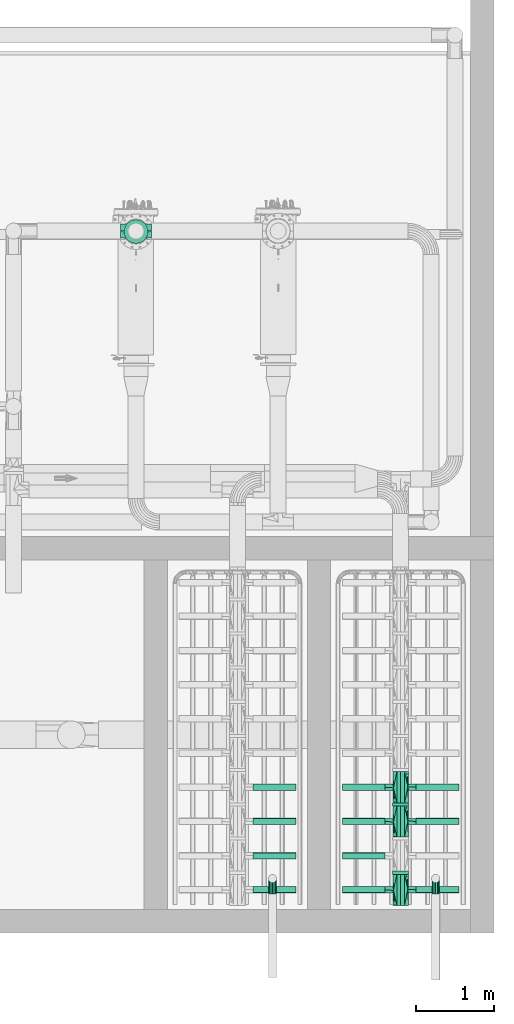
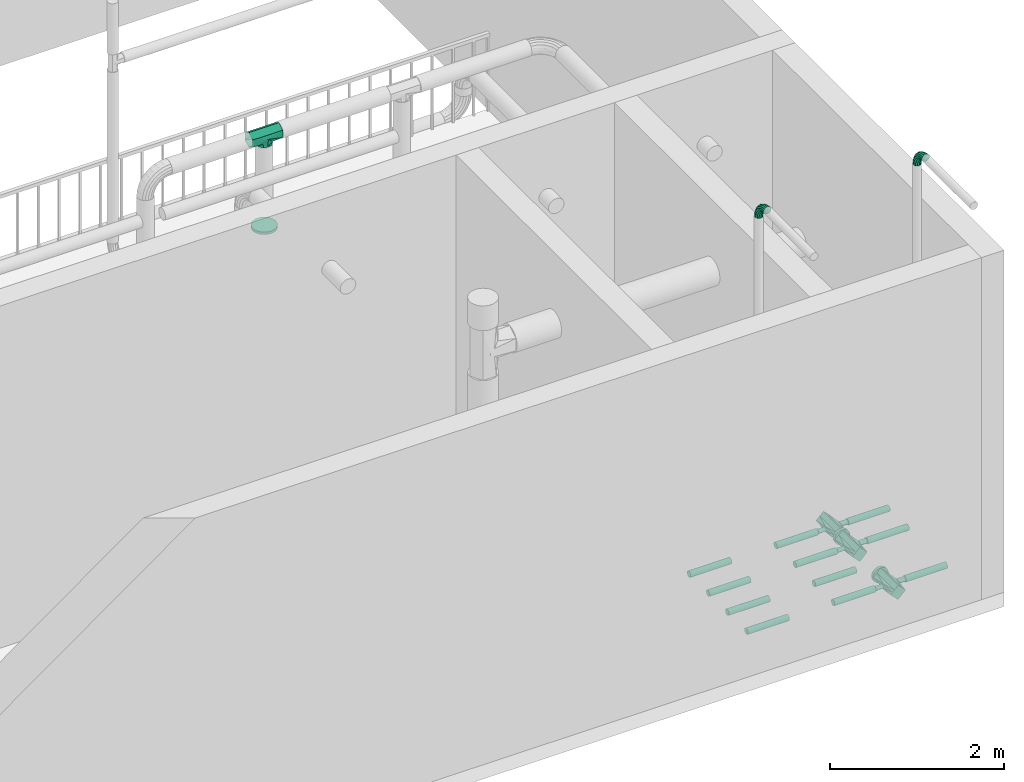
# One storey, part 20 of 28: 14 flow segments, 6 flow fittings.
"""IFC2X3 building model written with IfcOpenShell, lengths in millimetres."""

from ifc_helpers import new_model, entity, si_unit, converted_unit, direction, frame, frame_2d, origin, origin_2d_with_axis, place, context, subcontext, project, spatial, circle, extrude, faceted_brep, source, transform, mapped, material, type_object, type_shapes, element, save


model = new_model("IFC2X3")

# Units and contexts
model_context = context("Model", 3, precision=0.01, world=origin(), true_north=direction((6.123031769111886e-17, 1.0)))
body_context = subcontext(model_context, "Body", "Model", "MODEL_VIEW")
ifc_project = project(units=[si_unit("LENGTHUNIT", "METRE", prefix="MILLI"), converted_unit("PLANEANGLEUNIT", "DEGREE", entity("IfcPlaneAngleMeasure", 0.017453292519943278), si_unit("PLANEANGLEUNIT", "RADIAN"), dimensions=[0, 0, 0, 0, 0, 0, 0]), si_unit("AREAUNIT", "SQUARE_METRE")], contexts=[model_context])

# Site, building, storey
site_placement = place(None, frame((7776.576483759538, 118.3519876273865, 0.0)))
site = spatial("IfcSite", under=ifc_project, at=site_placement, Name="Default", CompositionType="ELEMENT")
building_placement = place(site_placement, origin())
building = spatial("IfcBuilding", under=site, at=building_placement, Name="Bygning (endres i Project Information)", CompositionType="ELEMENT")
storey_placement = place(building_placement, frame((0.0, 0.0, 14000.0)))
storey = spatial("IfcBuildingStorey", under=building, at=storey_placement, Name="Plan U1 - Arbeid", CompositionType="ELEMENT", Elevation=14000.000000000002)

# Flow segments
ifc_material_1 = material(Name="SS 2343 Rustfritt stål, prosessrør, generisk")
pipe_segment_type = type_object("IfcPipeSegmentType", Name="Pipe Types:AISI 304L Rustfritt", PredefinedType="NOTDEFINED", material=ifc_material_1)
flow_segment_1_placement = place(storey_placement, origin())
element("IfcFlowSegment", 1, at=flow_segment_1_placement, inside=storey, type_object=pipe_segment_type, Name="Pipe Types:AISI 304L Rustfritt", ObjectType="Pipe Types:AISI 304L Rustfritt", context=body_context, shape_type="SweptSolid", body=[
    extrude(circle(Radius=42.0, at=origin_2d_with_axis()), frame((29174.001374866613, 21271.75730578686, 203.0), z_axis=(1.0, 0.0, 0.0), x_axis=(0.0, -1.0, 0.0)), (0.0, 0.0, 1.0), 549.99999999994),
])
flow_segment_2_placement = place(storey_placement, origin())
element("IfcFlowSegment", 2, at=flow_segment_2_placement, inside=storey, type_object=pipe_segment_type, Name="Pipe Types:AISI 304L Rustfritt", ObjectType="Pipe Types:AISI 304L Rustfritt", context=body_context, shape_type="SweptSolid", body=[
    extrude(circle(Radius=42.0, at=origin_2d_with_axis()), frame((29174.001374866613, 20831.75730578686, 203.0), z_axis=(1.0, 0.0, 0.0), x_axis=(0.0, -1.0, 0.0)), (0.0, 0.0, 1.0), 549.99999999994),
])
flow_segment_3_placement = place(storey_placement, origin())
element("IfcFlowSegment", 3, at=flow_segment_3_placement, inside=storey, type_object=pipe_segment_type, Name="Pipe Types:AISI 304L Rustfritt", ObjectType="Pipe Types:AISI 304L Rustfritt", context=body_context, shape_type="SweptSolid", body=[
    extrude(circle(Radius=42.0, at=origin_2d_with_axis()), frame((29174.001374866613, 20391.757305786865, 203.0), z_axis=(1.0, 0.0, 0.0), x_axis=(0.0, -1.0, 0.0)), (0.0, 0.0, 1.0), 549.99999999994),
])
flow_segment_4_placement = place(storey_placement, origin())
element("IfcFlowSegment", 4, at=flow_segment_4_placement, inside=storey, type_object=pipe_segment_type, Name="Pipe Types:AISI 304L Rustfritt", ObjectType="Pipe Types:AISI 304L Rustfritt", context=body_context, shape_type="SweptSolid", body=[
    extrude(circle(Radius=42.0, at=origin_2d_with_axis()), frame((29174.001374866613, 19951.757305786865, 203.0), z_axis=(1.0, 0.0, 0.0), x_axis=(0.0, -1.0, 0.0)), (0.0, 0.0, 1.0), 549.99999999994),
])
flow_segment_5_placement = place(storey_placement, origin())
element("IfcFlowSegment", 5, at=flow_segment_5_placement, inside=storey, type_object=pipe_segment_type, Name="Pipe Types:AISI 304L Rustfritt", ObjectType="Pipe Types:AISI 304L Rustfritt", context=body_context, shape_type="SweptSolid", body=[
    extrude(circle(Radius=42.0, at=origin_2d_with_axis()), frame((31274.00137486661, 21271.757305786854, 203.0), z_axis=(1.0, 0.0, 0.0), x_axis=(0.0, -1.0, 0.0)), (0.0, 0.0, 1.0), 549.99999999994),
])
flow_segment_6_placement = place(storey_placement, origin())
element("IfcFlowSegment", 6, at=flow_segment_6_placement, inside=storey, type_object=pipe_segment_type, Name="Pipe Types:AISI 304L Rustfritt", ObjectType="Pipe Types:AISI 304L Rustfritt", context=body_context, shape_type="SweptSolid", body=[
    extrude(circle(Radius=42.0, at=origin_2d_with_axis()), frame((30324.001374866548, 21271.757305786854, 203.0), z_axis=(1.0, 0.0, 0.0), x_axis=(0.0, -1.0, 0.0)), (0.0, 0.0, 1.0), 550.0000000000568),
])
flow_segment_7_placement = place(storey_placement, origin())
element("IfcFlowSegment", 7, at=flow_segment_7_placement, inside=storey, type_object=pipe_segment_type, Name="Pipe Types:AISI 304L Rustfritt", ObjectType="Pipe Types:AISI 304L Rustfritt", context=body_context, shape_type="SweptSolid", body=[
    extrude(circle(Radius=42.0, at=origin_2d_with_axis()), frame((31274.00137486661, 20831.757305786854, 203.0), z_axis=(1.0, 0.0, 0.0), x_axis=(0.0, -1.0, 0.0)), (0.0, 0.0, 1.0), 549.99999999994),
])
flow_segment_8_placement = place(storey_placement, origin())
element("IfcFlowSegment", 8, at=flow_segment_8_placement, inside=storey, type_object=pipe_segment_type, Name="Pipe Types:AISI 304L Rustfritt", ObjectType="Pipe Types:AISI 304L Rustfritt", context=body_context, shape_type="SweptSolid", body=[
    extrude(circle(Radius=42.0, at=origin_2d_with_axis()), frame((30324.001374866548, 20831.757305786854, 203.0), z_axis=(1.0, 0.0, 0.0), x_axis=(0.0, -1.0, 0.0)), (0.0, 0.0, 1.0), 550.0000000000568),
])
flow_segment_9_placement = place(storey_placement, origin())
element("IfcFlowSegment", 9, at=flow_segment_9_placement, inside=storey, type_object=pipe_segment_type, Name="Pipe Types:AISI 304L Rustfritt", ObjectType="Pipe Types:AISI 304L Rustfritt", context=body_context, shape_type="SweptSolid", body=[
    extrude(circle(Radius=103.0, at=origin_2d_with_axis()), frame((31074.00137486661, 21031.757305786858, 203.0), z_axis=(0.0, 1.0, 0.0), x_axis=(1.0, 0.0, 0.0)), (0.0, 0.0, 1.0), 39.99999999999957),
])
flow_segment_10_placement = place(storey_placement, origin())
element("IfcFlowSegment", 10, at=flow_segment_10_placement, inside=storey, type_object=pipe_segment_type, Name="Pipe Types:AISI 304L Rustfritt", ObjectType="Pipe Types:AISI 304L Rustfritt", context=body_context, shape_type="SweptSolid", body=[
    extrude(circle(Radius=42.0, at=origin_2d_with_axis()), frame((30324.001374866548, 20391.757305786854, 203.0), z_axis=(1.0, 0.0, 0.0), x_axis=(0.0, -1.0, 0.0)), (0.0, 0.0, 1.0), 550.0000000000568),
])
flow_segment_11_placement = place(storey_placement, origin())
element("IfcFlowSegment", 11, at=flow_segment_11_placement, inside=storey, type_object=pipe_segment_type, Name="Pipe Types:AISI 304L Rustfritt", ObjectType="Pipe Types:AISI 304L Rustfritt", context=body_context, shape_type="SweptSolid", body=[
    extrude(circle(Radius=42.0, at=origin_2d_with_axis()), frame((31274.00137486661, 19951.757305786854, 203.0), z_axis=(1.0, 0.0, 0.0), x_axis=(0.0, -1.0, 0.0)), (0.0, 0.0, 1.0), 549.99999999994),
])
flow_segment_12_placement = place(storey_placement, origin())
element("IfcFlowSegment", 12, at=flow_segment_12_placement, inside=storey, type_object=pipe_segment_type, Name="Pipe Types:AISI 304L Rustfritt", ObjectType="Pipe Types:AISI 304L Rustfritt", context=body_context, shape_type="SweptSolid", body=[
    extrude(circle(Radius=42.0, at=origin_2d_with_axis()), frame((30324.001374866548, 19951.757305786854, 203.0), z_axis=(1.0, 0.0, 0.0), x_axis=(0.0, -1.0, 0.0)), (0.0, 0.0, 1.0), 550.0000000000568),
])
flow_segment_13_placement = place(storey_placement, origin())
element("IfcFlowSegment", 13, at=flow_segment_13_placement, inside=storey, type_object=pipe_segment_type, Name="Pipe Types:AISI 304L Rustfritt", ObjectType="Pipe Types:AISI 304L Rustfritt", context=body_context, shape_type="SweptSolid", body=[
    extrude(circle(Radius=103.0, at=origin_2d_with_axis()), frame((31074.00137486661, 20151.757305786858, 203.0), z_axis=(0.0, 1.0, 0.0), x_axis=(1.0, 0.0, 0.0)), (0.0, 0.0, 1.0), 39.99999999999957),
])
flow_segment_14_placement = place(storey_placement, origin())
element("IfcFlowSegment", 14, at=flow_segment_14_placement, inside=storey, type_object=pipe_segment_type, Name="Pipe Types:AISI 304L Rustfritt", ObjectType="Pipe Types:AISI 304L Rustfritt", context=body_context, shape_type="SweptSolid", body=[
    extrude(circle(Radius=153.0, at=frame_2d((0.0, 4.331413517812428e-12), x_axis=(1.0, 0.0))), frame((27667.696048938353, 28422.8675794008, 1263.511270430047), z_axis=(0.0, 0.005039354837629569, 0.9999873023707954), x_axis=(1.0, 0.0, 0.0)), (0.0, 0.0, 1.0), 35.88252624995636),
])

# Flow fittings
pipe_fitting_type_1 = type_object("IfcPipeFittingType", Name="VA_prosess_rustfritt_bend_D+100:VA_prosess_rustfritt_bend_D+100", PredefinedType="NOTDEFINED", material=ifc_material_1)
shared_shape_1 = source(origin(), body_context, "Body", "Brep", [
    faceted_brep([(-144.36976651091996, -43.73197804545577, 0.0), (-145.47159151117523, -38.904567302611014, 21.694186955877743), (-200.0, -45.04844339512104, 21.694186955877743), (-200.0, -50.0, 0.0), (-148.5588365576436, -25.37846297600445, 39.09157412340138), (-200.0, -31.17449009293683, 39.09157412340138), (-153.02003490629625, -5.83267591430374, 48.74639560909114), (-200.0, -11.126046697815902, 48.74639560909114), (-157.97159151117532, 15.861511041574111, 48.74639560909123), (-200.0, 11.126046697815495, 48.74639560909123), (-162.43278985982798, 35.40729810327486, 39.091574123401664), (-200.0, 31.17449009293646, 39.091574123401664), (-165.5200349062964, 48.93340242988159, 21.694186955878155), (-200.0, 45.04844339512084, 21.694186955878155), (-166.6218599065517, 53.760813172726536, 0.0), (-200.0, 50.0, 0.0), (-165.52003490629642, 48.9334024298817, -21.694186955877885), (-200.0, 45.04844339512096, -21.694186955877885), (-162.43278985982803, 35.4072981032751, -39.09157412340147), (-200.0, 31.174490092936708, -39.09157412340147), (-157.97159151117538, 15.861511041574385, -48.746395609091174), (-200.0, 11.126046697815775, -48.746395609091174), (-153.0200349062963, -5.832675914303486, -48.7463956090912), (-200.0, -11.12604669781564, -48.7463956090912), (-148.55883655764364, -25.37846297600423, -39.09157412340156), (-200.0, -31.1744900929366, -39.09157412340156), (-145.47159151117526, -38.90456730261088, -21.694186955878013), (-200.0, -45.048443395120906, -21.694186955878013), (-91.52906522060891, -25.242216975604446, 0.0), (-93.67746511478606, -20.781018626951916, 21.694186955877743), (-99.69714784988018, -8.281018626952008, 39.09157412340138), (-108.39584143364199, 9.782004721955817, 48.74639560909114), (-118.05066291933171, 29.83044811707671, 48.74639560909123), (-126.74935650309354, 47.89347146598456, 39.091574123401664), (-132.76903923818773, 60.39347146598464, 21.694186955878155), (-134.917439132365, 64.85466981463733, 0.0), (-132.7690392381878, 60.393471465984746, -21.694186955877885), (-126.74935650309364, 47.89347146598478, -39.09157412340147), (-118.05066291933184, 29.830448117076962, -48.746395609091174), (-108.3958414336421, 9.782004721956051, -48.7463956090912), (-99.69714784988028, -8.281018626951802, -39.09157412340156), (-93.67746511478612, -20.781018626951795, -21.694186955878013), (-44.12754953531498, 4.542129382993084, 0.0), (-47.21479458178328, 8.41341222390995, 21.694186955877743), (-55.86506297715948, 19.26050570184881, 39.09157412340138), (-68.36506297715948, 34.935009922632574, 48.74639560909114), (-82.23901627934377, 52.33239709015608, 48.74639560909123), (-94.73901627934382, 68.00690131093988, 39.091574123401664), (-103.38928467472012, 78.85399478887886, 21.694186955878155), (-106.47652972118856, 82.72527762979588, 0.0), (-103.3892846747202, 78.85399478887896, -21.694186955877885), (-94.73901627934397, 68.00690131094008, -39.09157412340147), (-82.23901627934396, 52.332397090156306, -48.746395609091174), (-68.36506297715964, 34.93500992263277, -48.7463956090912), (-55.865062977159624, 19.260505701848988, -39.09157412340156), (-47.214794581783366, 8.413412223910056, -21.694186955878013), (-4.542129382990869, 44.12754953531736, 0.0), (-8.413412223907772, 47.214794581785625, 21.694186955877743), (-19.260505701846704, 55.86506297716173, 39.09157412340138), (-34.93500992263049, 68.3650629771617, 48.74639560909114), (-52.33239709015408, 82.2390162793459, 48.74639560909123), (-68.00690131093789, 94.73901627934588, 39.091574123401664), (-78.85399478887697, 103.3892846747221, 21.694186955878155), (-82.72527762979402, 106.47652972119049, 0.0), (-78.85399478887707, 103.38928467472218, -21.694186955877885), (-68.00690131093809, 94.73901627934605, -39.09157412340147), (-52.3323970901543, 82.23901627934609, -48.746395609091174), (-34.9350099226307, 68.36506297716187, -48.7463956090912), (-19.26050570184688, 55.86506297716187, -39.09157412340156), (-8.413412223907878, 47.21479458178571, -21.694186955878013), (25.242216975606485, 91.52906522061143, 0.0), (20.781018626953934, 93.67746511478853, 21.694186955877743), (8.28101862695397, 99.69714784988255, 39.09157412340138), (-9.782004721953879, 108.3958414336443, 48.74639560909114), (-29.830448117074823, 118.05066291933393, 48.74639560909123), (-47.89347146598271, 126.7493565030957, 39.091574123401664), (-60.39347146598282, 132.7690392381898, 21.694186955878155), (-64.85466981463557, 134.91743913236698, 0.0), (-60.393471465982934, 132.76903923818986, -21.694186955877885), (-47.893471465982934, 126.74935650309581, -39.09157412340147), (-29.830448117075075, 118.05066291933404, -48.746395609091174), (-9.782004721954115, 108.39584143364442, -48.7463956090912), (8.281018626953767, 99.69714784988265, -39.09157412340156), (20.781018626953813, 93.67746511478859, -21.694186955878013), (43.73197804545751, 144.36976651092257, 0.0), (38.90456730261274, 145.47159151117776, 21.694186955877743), (25.378462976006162, 148.55883655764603, 39.09157412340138), (5.832675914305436, 153.0200349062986, 48.74639560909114), (-15.861511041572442, 157.97159151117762, 48.74639560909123), (-35.4072981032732, 162.4327898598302, 39.091574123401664), (-48.933402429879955, 165.52003490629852, 21.694186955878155), (-53.760813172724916, 166.62185990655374, 0.0), (-48.93340242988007, 165.52003490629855, -21.694186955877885), (-35.40729810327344, 162.43278985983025, -39.09157412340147), (-15.861511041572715, 157.97159151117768, -48.746395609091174), (5.832675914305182, 153.0200349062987, -48.7463956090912), (25.37846297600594, 148.5588365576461, -39.09157412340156), (38.90456730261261, 145.4715915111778, -21.694186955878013), (50.0, 200.0, 0.0), (45.04844339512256, 200.0, 21.694186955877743), (31.174490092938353, 200.0, 39.09157412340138), (11.126046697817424, 200.0, 48.74639560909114), (-11.126046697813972, 200.0, 48.74639560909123), (-31.174490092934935, 200.0, 39.091574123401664), (-45.04844339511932, 200.0, 21.694186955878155), (-50.0, 200.0, 0.0), (-45.04844339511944, 200.0, -21.694186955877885), (-31.174490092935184, 200.0, -39.09157412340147), (-11.126046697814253, 200.0, -48.746395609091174), (11.126046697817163, 200.0, -48.7463956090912), (31.174490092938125, 200.0, -39.09157412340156), (45.048443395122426, 200.0, -21.694186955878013)], [[[0, 1, 2, 3]], [[1, 4, 5, 2]], [[4, 6, 7, 5]], [[6, 8, 9, 7]], [[8, 10, 11, 9]], [[10, 12, 13, 11]], [[12, 14, 15, 13]], [[14, 16, 17, 15]], [[16, 18, 19, 17]], [[18, 20, 21, 19]], [[20, 22, 23, 21]], [[22, 24, 25, 23]], [[24, 26, 27, 25]], [[26, 0, 3, 27]], [[28, 29, 1, 0]], [[29, 30, 4, 1]], [[30, 31, 6, 4]], [[31, 32, 8, 6]], [[32, 33, 10, 8]], [[33, 34, 12, 10]], [[34, 35, 14, 12]], [[35, 36, 16, 14]], [[36, 37, 18, 16]], [[37, 38, 20, 18]], [[38, 39, 22, 20]], [[39, 40, 24, 22]], [[40, 41, 26, 24]], [[41, 28, 0, 26]], [[42, 43, 29, 28]], [[43, 44, 30, 29]], [[44, 45, 31, 30]], [[45, 46, 32, 31]], [[46, 47, 33, 32]], [[47, 48, 34, 33]], [[48, 49, 35, 34]], [[49, 50, 36, 35]], [[50, 51, 37, 36]], [[51, 52, 38, 37]], [[52, 53, 39, 38]], [[53, 54, 40, 39]], [[54, 55, 41, 40]], [[55, 42, 28, 41]], [[56, 57, 43, 42]], [[57, 58, 44, 43]], [[58, 59, 45, 44]], [[59, 60, 46, 45]], [[60, 61, 47, 46]], [[61, 62, 48, 47]], [[62, 63, 49, 48]], [[63, 64, 50, 49]], [[64, 65, 51, 50]], [[65, 66, 52, 51]], [[66, 67, 53, 52]], [[67, 68, 54, 53]], [[68, 69, 55, 54]], [[69, 56, 42, 55]], [[70, 71, 57, 56]], [[71, 72, 58, 57]], [[72, 73, 59, 58]], [[73, 74, 60, 59]], [[74, 75, 61, 60]], [[75, 76, 62, 61]], [[76, 77, 63, 62]], [[77, 78, 64, 63]], [[78, 79, 65, 64]], [[79, 80, 66, 65]], [[80, 81, 67, 66]], [[81, 82, 68, 67]], [[82, 83, 69, 68]], [[83, 70, 56, 69]], [[84, 85, 71, 70]], [[85, 86, 72, 71]], [[86, 87, 73, 72]], [[87, 88, 74, 73]], [[88, 89, 75, 74]], [[89, 90, 76, 75]], [[90, 91, 77, 76]], [[91, 92, 78, 77]], [[92, 93, 79, 78]], [[93, 94, 80, 79]], [[94, 95, 81, 80]], [[95, 96, 82, 81]], [[96, 97, 83, 82]], [[97, 84, 70, 83]], [[98, 99, 85, 84]], [[99, 100, 86, 85]], [[100, 101, 87, 86]], [[101, 102, 88, 87]], [[102, 103, 89, 88]], [[103, 104, 90, 89]], [[104, 105, 91, 90]], [[105, 106, 92, 91]], [[106, 107, 93, 92]], [[107, 108, 94, 93]], [[108, 109, 95, 94]], [[109, 110, 96, 95]], [[110, 111, 97, 96]], [[111, 98, 84, 97]], [[3, 2, 5, 7, 9, 11, 13, 15, 17, 19, 21, 23, 25, 27]], [[111, 110, 109, 108, 107, 106, 105, 104, 103, 102, 101, 100, 99, 98]]]),
])
type_shapes(pipe_fitting_type_1, [shared_shape_1])
for number, where, z_axis, x_axis in (
    (15, (31524.001374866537, 20097.757305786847, 6053.29656775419), (1.0, 0.0, 0.0), (0.0, 0.0, 1.0)),
    (16, (29424.00137486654, 20097.757305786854, 6053.29656775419), (1.0, 0.0, 0.0), (0.0, 0.0, 1.0)),
):
    element("IfcFlowFitting", number, at=place(storey_placement, frame(where, z_axis=z_axis, x_axis=x_axis)), inside=storey, type_object=pipe_fitting_type_1, material=ifc_material_1, Name="VA_prosess_rustfritt_bend_D+100:VA_prosess_rustfritt_bend_D+100", ObjectType="VA_prosess_rustfritt_bend_D+100:VA_prosess_rustfritt_bend_D+100", context=body_context, shape_type="MappedRepresentation", body=[
        mapped(shared_shape_1, transform((0.0, 0.0, 0.0), scale=1.0)),
    ])
ifc_material_2 = material(Name="Rustfritt")
pipe_fitting_type_2 = type_object("IfcPipeFittingType", Name="T-rør,Rustfritt EN 1,4307304L, sveiste, oppkraget, metrisk, EN 10253-4:Standard", PredefinedType="NOTDEFINED", material=ifc_material_2)
shared_shape_2 = source(origin(), body_context, "Body", "Brep", [
    faceted_brep([(-200.0, 51.49999999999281, -89.20061658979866), (-200.0, 50.0, -86.60254037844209), (-200.0, 75.0, -43.3012701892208), (-200.0, 100.0, 0.0), (-200.0, 81.21564460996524, -37.73161034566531), (-200.0, 0.0, -86.60254037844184), (-200.0, -50.0, -86.60254037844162), (-200.0, 0.0, -89.20061658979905), (-200.0, -51.50000000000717, -89.20061658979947), (-200.0, -75.0, -43.30127018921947), (-200.0, -100.0, 0.0), (-200.0, -77.25000000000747, -44.60030829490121), (-200.0, -103.0, 0.0), (-200.0, -87.50000000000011, 21.65063509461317), (-200.0, -75.0, 43.301270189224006), (-200.0, -50.0, 86.60254037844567), (-200.0, -90.1250000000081, 22.30015414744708), (-200.0, -77.25000000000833, 44.60030829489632), (-200.0, -51.50000000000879, 89.20061658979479), (-200.0, 0.0, 89.20061658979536), (-200.0, 51.499999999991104, 89.20061658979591), (-200.0, 0.0, 86.60254037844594), (-200.0, 50.0, 86.60254037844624), (-200.0, 77.24999999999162, 44.60030829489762), (-200.0, 103.0, 0.0), (-200.0, 79.16042262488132, 36.09520682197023), (200.0, 51.49999999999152, -89.20061658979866), (200.0, 100.0, 0.0), (200.0, 75.0, -43.30127018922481), (200.0, 77.2499999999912, -44.6003082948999), (200.0, 50.0, -86.60254037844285), (200.0, 0.0, -86.60254037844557), (200.0, -50.0, -86.6025403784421), (200.0, 0.0, -89.20061658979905), (200.0, 103.0, 0.0), (200.0, 75.0, 43.301270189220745), (200.0, 50.0, 86.60254037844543), (200.0, 77.24999999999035, 44.600308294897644), (200.0, 51.49999999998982, 89.20061658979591), (200.0, 0.0, 86.60254037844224), (200.0, -50.0, 86.60254037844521), (200.0, 0.0, 89.20061658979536), (200.0, -51.500000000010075, 89.20061658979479), (200.0, -77.25000000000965, 44.600308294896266), (200.0, -103.0, 0.0), (200.0, -75.0, 43.301270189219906), (200.0, -100.0, 0.0), (200.0, -90.12500000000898, -22.30015414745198), (200.0, -77.2500000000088, -44.60030829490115), (200.0, -51.500000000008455, -89.20061658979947), (200.0, -75.0, -43.30127018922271), (200.0, -87.50000000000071, -21.65063509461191), (87.99487622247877, -87.99487622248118, 36.336951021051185), (72.98975244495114, -72.98975244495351, 72.67390204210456), (0.0, 0.0, 103.0), (-59.744280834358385, -59.7442808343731, 83.90244875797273), (103.0, -103.0, 0.0), (-103.0, -103.0, 0.0), (-83.0022440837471, -83.00224408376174, 38.78933753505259), (-81.372140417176, -81.37214041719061, 41.951224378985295), (-98.9088238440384, -98.90882384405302, 7.935591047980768), (-92.18607020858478, -92.18607020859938, 20.975612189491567), (0.0, 0.0, -103.0), (83.00224409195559, -83.00224409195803, -38.78933751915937), (81.37214041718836, -81.37214041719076, -41.95122437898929), (59.74428083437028, -59.7442808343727, -83.90244875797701), (-87.99487622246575, -87.9948762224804, -36.33695102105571), (98.90882384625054, -98.90882384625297, -7.935591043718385), (92.18607020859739, -92.18607020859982, -20.975612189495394), (-72.98975244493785, -72.98975244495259, -72.67390204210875), (51.50000000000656, -114.28571428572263, -89.20061658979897), (100.0, -114.28571428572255, 0.0), (81.76537069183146, -114.28571428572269, -31.583304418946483), (83.93868883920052, -114.2857142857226, -33.01515938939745), (50.0, -114.28571428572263, -86.60254037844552), (0.0, -114.28571428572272, -86.60254037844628), (-50.0, -114.2857142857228, -86.60254037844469), (0.0, -114.28571428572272, -89.20061658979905), (93.46934441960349, -114.28571428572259, -16.50757969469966), (103.0, -114.28571428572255, 0.0), (75.0, -114.28571428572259, 43.30127018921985), (50.0, -114.28571428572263, 86.6025403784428), (77.25000000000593, -114.28571428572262, 44.60030829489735), (51.500000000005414, -114.28571428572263, 89.20061658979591), (0.0, -114.28571428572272, 86.60254037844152), (-50.0, -114.2857142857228, 86.6025403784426), (0.0, -114.28571428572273, 89.20061658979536), (-51.49999999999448, -114.2857142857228, 89.20061658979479), (-83.93868900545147, -114.28571428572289, 33.01515910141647), (-93.4693445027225, -114.28571428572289, 16.50757955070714), (-103.0, -114.28571428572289, 0.0), (-81.7653681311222, -114.28571428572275, 31.583308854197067), (-100.0, -114.28571428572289, 0.0), (-77.24999999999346, -114.28571428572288, -44.60030829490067), (-51.499999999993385, -114.2857142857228, -89.20061658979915), (-75.0, -114.28571428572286, -43.30127018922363), (-85.42830493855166, -85.42830493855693, -35.282222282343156), (-70.85660987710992, -70.85660987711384, -70.56444456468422), (78.99890634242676, -78.99890634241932, -40.731602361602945), (-100.0, -100.0, 0.0), (57.99781268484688, -57.9978126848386, -81.46320472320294), (89.49945317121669, -89.49945317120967, -20.36580118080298), (0.0, 0.0, -100.0), (80.8612318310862, -80.86123183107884, -37.11962374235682), (100.0, -100.0, 0.0), (85.42830493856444, -85.42830493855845, 35.28222228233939), (70.85660987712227, -70.85660987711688, 70.56444456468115), (-78.99890634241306, -78.99890634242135, 40.731602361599), (-57.99781268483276, -57.99781268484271, 81.46320472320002), (-89.49945317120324, -89.49945317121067, 20.36580118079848), (0.0, 0.0, 100.0), (-80.86123190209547, -80.86123190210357, 37.119623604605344)], [[[0, 1, 2]], [[0, 2, 3]], [[3, 4, 0]], [[0, 5, 1]], [[0, 6, 5]], [[6, 0, 7]], [[6, 7, 8]], [[8, 9, 6]], [[8, 10, 9]], [[10, 8, 11]], [[10, 11, 12]], [[12, 13, 10]], [[12, 14, 13]], [[12, 15, 14]], [[15, 12, 16]], [[15, 16, 17]], [[15, 17, 18]], [[15, 18, 19]], [[15, 19, 20]], [[20, 21, 15]], [[20, 22, 21]], [[22, 20, 23]], [[22, 23, 24]], [[3, 24, 4]], [[24, 3, 25]], [[24, 25, 22]], [[26, 27, 28]], [[27, 26, 29]], [[26, 28, 30]], [[26, 30, 31]], [[26, 31, 32]], [[32, 33, 26]], [[27, 29, 34]], [[34, 35, 27]], [[34, 36, 35]], [[36, 34, 37]], [[36, 37, 38]], [[38, 39, 36]], [[38, 40, 39]], [[40, 38, 41]], [[40, 41, 42]], [[40, 42, 43]], [[40, 43, 44]], [[44, 45, 40]], [[44, 46, 45]], [[46, 44, 47]], [[46, 47, 48]], [[46, 48, 49]], [[49, 32, 50]], [[32, 49, 33]], [[49, 50, 51]], [[49, 51, 46]], [[43, 52, 44]], [[53, 43, 42]], [[54, 42, 41, 38]], [[17, 55, 18]], [[44, 52, 56]], [[12, 57, 16]], [[43, 53, 52]], [[42, 54, 53]], [[24, 23, 20, 38, 37, 34]], [[18, 54, 20, 19]], [[18, 55, 54]], [[58, 17, 16]], [[20, 54, 38]], [[17, 58, 59, 55]], [[16, 57, 60, 61, 58]], [[0, 4, 24, 34, 29, 26]], [[62, 26, 33, 49]], [[0, 26, 62]], [[0, 62, 8, 7]], [[63, 48, 47]], [[48, 63, 64, 65]], [[12, 66, 57]], [[56, 47, 44]], [[47, 56, 67, 68, 63]], [[65, 49, 48]], [[69, 8, 62]], [[11, 66, 12]], [[11, 69, 66]], [[69, 11, 8]], [[49, 65, 62]], [[70, 71, 72]], [[71, 70, 73]], [[70, 72, 74]], [[70, 74, 75]], [[70, 75, 76]], [[76, 77, 70]], [[71, 73, 78]], [[71, 78, 79]], [[79, 80, 71]], [[79, 81, 80]], [[81, 79, 82]], [[81, 82, 83]], [[83, 84, 81]], [[83, 85, 84]], [[85, 83, 86]], [[85, 86, 87]], [[85, 87, 88]], [[85, 88, 89]], [[85, 89, 90]], [[90, 91, 85]], [[90, 92, 91]], [[92, 90, 93]], [[92, 93, 94]], [[94, 76, 95]], [[76, 94, 77]], [[94, 95, 92]], [[59, 87, 55]], [[55, 86, 54]], [[53, 83, 82]], [[60, 57, 90]], [[55, 87, 86]], [[61, 60, 89]], [[56, 52, 79]], [[60, 90, 89]], [[79, 52, 82]], [[53, 82, 52]], [[88, 59, 58, 61]], [[61, 89, 88]], [[83, 53, 86]], [[86, 53, 54]], [[87, 59, 88]], [[64, 70, 65]], [[70, 64, 73]], [[90, 66, 93]], [[67, 56, 79]], [[65, 70, 77]], [[73, 64, 63, 68]], [[57, 66, 90]], [[69, 94, 93]], [[68, 67, 78]], [[69, 93, 66]], [[67, 79, 78]], [[77, 69, 62]], [[94, 69, 77]], [[65, 77, 62]], [[68, 78, 73]], [[96, 95, 97]], [[95, 96, 92]], [[72, 98, 74]], [[92, 96, 99]], [[75, 74, 100]], [[95, 76, 97]], [[101, 72, 71]], [[100, 74, 98]], [[102, 97, 75]], [[72, 101, 103, 98]], [[102, 75, 100]], [[97, 76, 75]], [[104, 101, 71]], [[105, 80, 106]], [[91, 107, 85]], [[80, 105, 71]], [[71, 105, 104]], [[84, 85, 108]], [[109, 91, 92]], [[107, 108, 85]], [[109, 92, 99]], [[110, 106, 84]], [[80, 81, 106]], [[110, 84, 108]], [[106, 81, 84]], [[91, 109, 111, 107]], [[10, 96, 9]], [[6, 9, 97]], [[31, 30, 102, 32]], [[32, 100, 50]], [[99, 96, 10]], [[51, 104, 46]], [[51, 103, 101, 104]], [[97, 102, 6]], [[96, 97, 9]], [[1, 5, 6, 102]], [[2, 1, 30, 28, 27, 3]], [[102, 100, 32]], [[1, 102, 30]], [[51, 50, 103]], [[50, 100, 98, 103]], [[25, 3, 27, 35, 36, 22]], [[110, 15, 21, 22]], [[110, 22, 36]], [[110, 36, 39, 40]], [[105, 106, 45]], [[108, 15, 110]], [[14, 15, 108]], [[13, 99, 10]], [[13, 111, 109, 99]], [[104, 105, 46]], [[45, 106, 40]], [[106, 110, 40]], [[46, 105, 45]], [[13, 14, 111]], [[14, 108, 107, 111]]]),
])
type_shapes(pipe_fitting_type_2, [shared_shape_2])
flow_fitting_placement = place(storey_placement, frame((27667.696048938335, 28429.85394005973, 2552.2960799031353), z_axis=(0.0, -0.9999852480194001, 0.005431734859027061), x_axis=(1.0, 0.0, 0.0)))
element("IfcFlowFitting", 17, at=flow_fitting_placement, inside=storey, type_object=pipe_fitting_type_2, material=ifc_material_2, Name="T-rør,Rustfritt EN 1,4307304L, sveiste, oppkraget, metrisk, EN 10253-4:Standard", ObjectType="T-rør,Rustfritt EN 1,4307304L, sveiste, oppkraget, metrisk, EN 10253-4:Standard", context=body_context, shape_type="MappedRepresentation", body=[
    mapped(shared_shape_2, transform((0.0, 0.0, 0.0), scale=1.0)),
])
pipe_fitting_type_3 = type_object("IfcPipeFittingType", Name="VA_prosess_rustfritt_kryss:VA_prosess_rustfritt_kryss", PredefinedType="NOTDEFINED", material=ifc_material_1)
shared_shape_3 = source(origin(), body_context, "Body", "Brep", [
    faceted_brep([(-200.0, -100.0, 0.0), (-200.0, -50.0, 50.0), (-200.0, 0.0, 100.0), (-200.0, 50.0, 50.0), (-200.0, 75.0, 25.0), (-200.0, 100.0, 0.0), (-200.0, 50.0, -50.0), (-200.0, 0.0, -100.0), (-200.0, -50.0, -50.0), (-200.0, -75.0, -25.0), (200.0, 50.0, -50.0), (200.0, 75.0, -25.0), (200.0, 100.0, 0.0), (200.0, 50.0, 50.0), (200.0, 0.0, 100.0), (200.0, -50.0, 50.0), (200.0, -75.0, 25.0), (200.0, -100.0, 0.0), (200.0, -50.0, -50.0), (200.0, 0.0, -100.0), (40.0, -100.0, 0.0), (-7.006670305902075, 91.91895032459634, 39.381551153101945), (-40.0, -100.0, 0.0), (-28.24833242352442, -97.97973758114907, 9.845387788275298), (-16.496664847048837, -95.9594751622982, 19.690775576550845), (-4.744997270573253, -93.93921274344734, 29.53616336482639), (7.00667030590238, -91.91895032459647, 39.38155115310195), (23.50333515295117, -95.95947516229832, 19.690775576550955), (-23.503335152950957, 95.95947516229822, 19.69077557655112), (-40.0, 100.0, 0.0), (40.0, 100.0, 0.0), (28.248332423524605, 97.97973758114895, 9.845387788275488), (16.496664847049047, 95.95947516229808, 19.690775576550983), (4.744997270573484, 93.93921274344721, 29.536163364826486), (-7.017574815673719, -91.91978218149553, -39.37960949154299), (-23.508787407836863, -95.95989109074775, -19.68980474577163), (-28.245606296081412, 97.97994554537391, -9.844902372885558), (-16.491212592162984, 95.95989109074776, -19.689804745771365), (-4.736818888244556, 93.93983663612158, -29.534707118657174), (7.017574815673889, 91.91978218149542, -39.37960949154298), (23.508787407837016, 95.95989109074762, -19.689804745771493), (28.24560629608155, -97.97994554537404, -9.844902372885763), (16.49121259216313, -95.95989109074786, -19.689804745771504), (4.736818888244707, -93.9398366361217, -29.53470711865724), (19.233483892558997, -200.0, -20.76651610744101), (29.616741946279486, -200.0, -10.383258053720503), (40.0, -200.0, 0.0), (20.0, -200.0, 20.0), (0.0, -200.0, 40.0), (-19.2334837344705, -200.0, 20.76651626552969), (-29.616741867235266, -200.0, 10.383258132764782), (-40.0, -200.0, 0.0), (-20.0, -200.0, -20.0), (0.0, -200.0, -40.0), (-19.23348389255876, 200.0, -20.766516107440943), (-29.616741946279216, 200.0, -10.38325805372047), (-40.0, 200.0, 0.0), (-20.0, 200.0, 20.0), (0.0, 200.0, 40.0), (19.233483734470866, 200.0, 20.76651626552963), (29.616741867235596, 200.0, 10.383258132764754), (40.0, 200.0, 0.0), (20.0, 200.0, -20.0), (0.0, 200.0, -40.0)], [[[0, 1, 2, 3, 4, 5, 6, 7, 8, 9]], [[10, 11, 12, 13, 14, 15, 16, 17, 18, 19]], [[17, 16, 20]], [[15, 14, 2, 1]], [[3, 13, 21]], [[0, 22, 23, 24, 25, 26]], [[0, 26, 1]], [[16, 26, 27, 20]], [[4, 21, 28, 29]], [[21, 13, 12]], [[26, 16, 15]], [[12, 30, 31, 32, 33, 21]], [[29, 5, 4]], [[2, 14, 13, 3]], [[21, 4, 3]], [[1, 26, 15]], [[11, 30, 12]], [[10, 19, 7, 6]], [[34, 9, 8]], [[9, 34, 35, 22]], [[5, 29, 36, 37, 38, 39]], [[39, 11, 10]], [[5, 39, 6]], [[34, 18, 17]], [[11, 39, 40, 30]], [[17, 20, 41, 42, 43, 34]], [[22, 0, 9]], [[7, 19, 18, 8]], [[6, 39, 10]], [[8, 18, 34]], [[44, 45, 46, 47, 48, 49, 50, 51, 52, 53]], [[25, 24, 23, 49]], [[49, 23, 50]], [[50, 22, 51]], [[49, 48, 25]], [[26, 48, 47]], [[47, 27, 26]], [[20, 27, 46]], [[46, 27, 47]], [[48, 26, 25]], [[22, 50, 23]], [[43, 42, 41, 44]], [[44, 41, 45]], [[45, 20, 46]], [[44, 53, 43]], [[34, 53, 52]], [[52, 35, 34]], [[22, 35, 51]], [[51, 35, 52]], [[53, 34, 43]], [[20, 45, 41]], [[54, 55, 56, 57, 58, 59, 60, 61, 62, 63]], [[33, 32, 31, 59]], [[59, 31, 60]], [[60, 30, 61]], [[59, 58, 33]], [[21, 58, 57]], [[57, 28, 21]], [[29, 28, 56]], [[56, 28, 57]], [[58, 21, 33]], [[30, 60, 31]], [[38, 37, 36, 54]], [[54, 36, 55]], [[55, 29, 56]], [[54, 63, 38]], [[39, 63, 62]], [[62, 40, 39]], [[30, 40, 61]], [[61, 40, 62]], [[63, 39, 38]], [[29, 55, 36]]]),
])
type_shapes(pipe_fitting_type_3, [shared_shape_3])
for number, where, z_axis, x_axis in (
    (18, (31074.00137486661, 21271.757305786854, 203.0), (0.0, 0.0, 1.0), (0.0, 1.0, 0.0)),
    (19, (31074.00137486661, 20831.757305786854, 203.0), (0.0, 0.0, 1.0), (0.0, 1.0, 0.0)),
    (20, (31074.00137486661, 19951.757305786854, 203.0), (0.0, 0.0, 1.0), (0.0, 1.0, 0.0)),
):
    element("IfcFlowFitting", number, at=place(storey_placement, frame(where, z_axis=z_axis, x_axis=x_axis)), inside=storey, type_object=pipe_fitting_type_3, material=ifc_material_1, Name="VA_prosess_rustfritt_kryss:VA_prosess_rustfritt_kryss", ObjectType="VA_prosess_rustfritt_kryss:VA_prosess_rustfritt_kryss", context=body_context, shape_type="MappedRepresentation", body=[
        mapped(shared_shape_3, transform((0.0, 0.0, 0.0), scale=1.0)),
    ])

save(model, "model.ifc")
